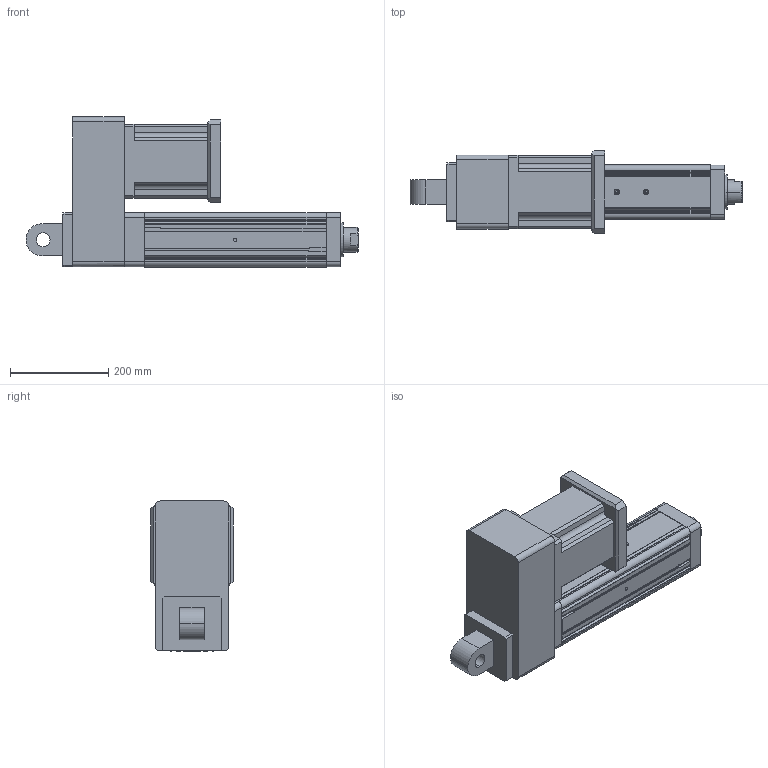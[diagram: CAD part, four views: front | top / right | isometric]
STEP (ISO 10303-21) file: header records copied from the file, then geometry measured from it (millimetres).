
FILE_DESCRIPTION (( 'STEP AP203' ), '1' );
FILE_NAME ('YRJ110-L200-H6K2.STEP', '2020-01-04T07:03:33', ( 'User' ), ( 'China' ), 'SwSTEP 2.0', 'SolidWorks 2016', '' );
FILE_SCHEMA (( 'CONFIG_CONTROL_DESIGN' ));
Length unit declared in the file: millimetre
Products named in the file (8): H6-110; 萇儂碟-110; H3-110-2; K2-110; YRJ110-L200-H6K2; 142熬厒儂; H5-110-1; 095-100俴最倰第
Assembly tree (7 placements, depth 2):
  YRJ110-L200-H6K2
    095-100俴最倰第
    萇儂碟-110
    142熬厒儂
    H5-110-1
    H6-110
    H3-110-2
    K2-110
Bounding box: 676 x 168 x 305.5 mm (x, y, z)
Volume: 11748888.7 mm3; surface area: 861202.2 mm2
Topology: 7 solids, 7 shells, 316 faces, 865 edges, 559 vertices
Faces by surface type: plane 177, cylinder 112, cone 27
Entity records: 11082 total; most frequent: CARTESIAN_POINT 2074, DIRECTION 1718, ORIENTED_EDGE 1698, EDGE_CURVE 849, VECTOR 588, LINE 588, AXIS2_PLACEMENT_3D 565, VERTEX_POINT 559
